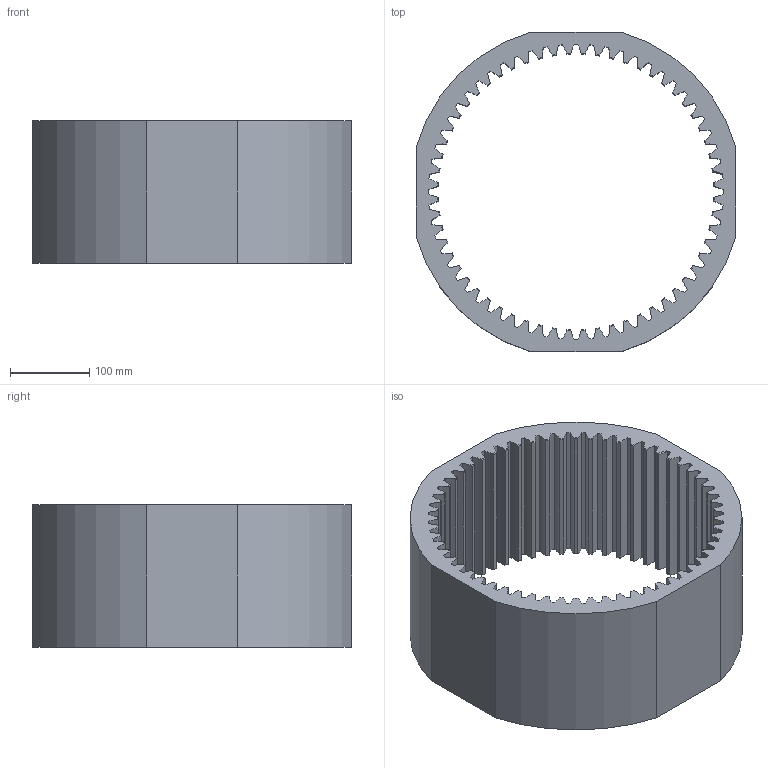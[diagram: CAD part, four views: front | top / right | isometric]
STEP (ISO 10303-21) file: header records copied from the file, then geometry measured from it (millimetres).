
FILE_DESCRIPTION(/* description */ (''),/* implementation_level */ '2;1');
FILE_NAME(/* name */ 'C:\Users\jbart\OneDrive\Plocha\Nová složka\3D modely - stp\Korunové kolo 2.stp',/* time_stamp */ '2025-05-15T16:49:50+02:00',/* author */ ('jbart'),/* organization */ (''),/* preprocessor_version */ 'ST-DEVELOPER v18.1',/* originating_system */ 'Autodesk Inventor 2022',/* authorisation */ '');
FILE_SCHEMA (('AUTOMOTIVE_DESIGN { 1 0 10303 214 3 1 1 }'));
Length unit declared in the file: millimetre
Products named in the file (3): Korunové kolo B; Čelní ozubená kola; Čelní ozubené kolo2
Assembly tree (2 placements, depth 3):
  Korunové kolo B
    Čelní ozubená kola
      Čelní ozubené kolo2
Bounding box: 404 x 404 x 180 mm (x, y, z)
Volume: 5966277.3 mm3; surface area: 690186.5 mm2
Topology: 1 solids, 1 shells, 371 faces, 1106 edges, 737 vertices
Faces by surface type: cylinder 244, cone 121, plane 6
Entity records: 13157 total; most frequent: CARTESIAN_POINT 2945, DIRECTION 2228, ORIENTED_EDGE 2212, EDGE_CURVE 1106, AXIS2_PLACEMENT_3D 986, VERTEX_POINT 737, CIRCLE 609, EDGE_LOOP 373
